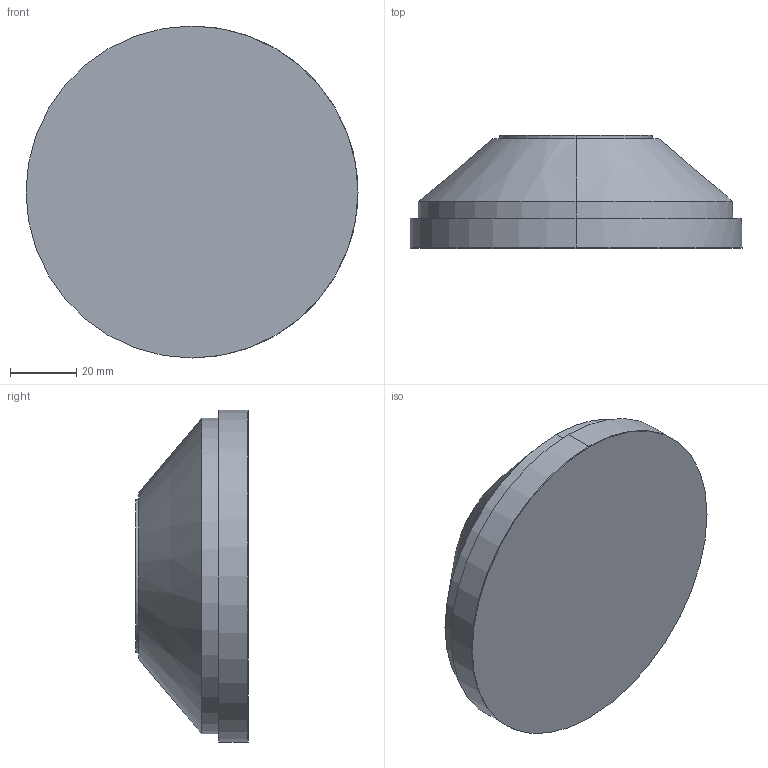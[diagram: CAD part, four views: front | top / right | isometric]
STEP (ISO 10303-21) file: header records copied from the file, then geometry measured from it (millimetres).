
FILE_DESCRIPTION (( 'STEP AP203' ), '1' );
FILE_NAME ('EZ-0053-100 Standardlager Bestell-Nr. 0004658.STEP', '2021-09-16T15:18:36', ( '' ), ( '' ), 'SwSTEP 2.0', 'SolidWorks 2021', '' );
FILE_SCHEMA (( 'CONFIG_CONTROL_DESIGN' ));
Length unit declared in the file: millimetre
Products named in the file (1): EZ-0053-100 Standardlager  Bestell-Nr. 0004658
Bounding box: 100 x 34 x 100 mm (x, y, z)
Volume: 186056.3 mm3; surface area: 39213.5 mm2
Topology: 4 solids, 4 shells, 79 faces, 174 edges, 108 vertices
Faces by surface type: cylinder 34, plane 23, cone 12, torus 8, sphere 2
Entity records: 2295 total; most frequent: CARTESIAN_POINT 420, DIRECTION 420, ORIENTED_EDGE 340, AXIS2_PLACEMENT_3D 178, EDGE_CURVE 170, VERTEX_POINT 108, CIRCLE 98, EDGE_LOOP 90
